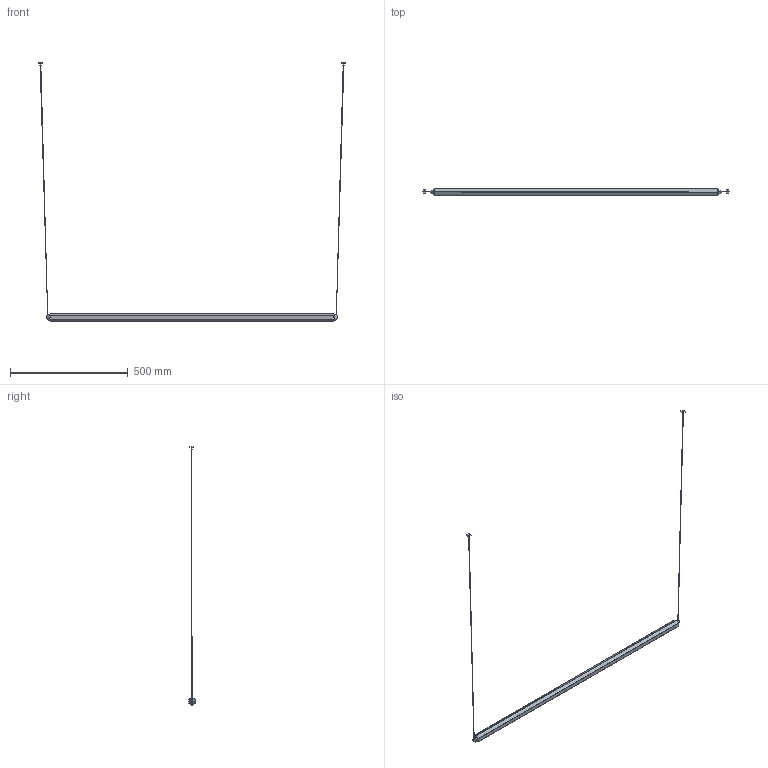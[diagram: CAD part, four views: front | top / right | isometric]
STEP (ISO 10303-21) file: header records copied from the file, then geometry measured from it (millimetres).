
FILE_DESCRIPTION(/* description */ (''),/* implementation_level */ '2;1');
FILE_NAME(/* name */ '64682-131_3d',/* time_stamp */ '2026-05-25T13:16:16+02:00',/* author */ (''),/* organization */ (''),/* preprocessor_version */ 'ST-DEVELOPER v19.2',/* originating_system */ 'Rhino 8.30',/* authorisation */ '');
FILE_SCHEMA (('CONFIG_CONTROL_DESIGN'));
Length unit declared in the file: millimetre
Products named in the file (1): Document
Bounding box: 1303.38 x 30.86 x 1095.24 mm (x, y, z)
Volume: 445597.4 mm3; surface area: 217203.1 mm2
Topology: 5 solids, 9 shells, 103 faces, 295 edges, 188 vertices
Faces by surface type: cylinder 40, plane 38, bspline 25
Entity records: 8524 total; most frequent: CARTESIAN_POINT 6274, ORIENTED_EDGE 562, EDGE_CURVE 287, DIRECTION 236, VERTEX_POINT 186, B_SPLINE_CURVE_WITH_KNOTS 163, AXIS2_PLACEMENT_3D 156, EDGE_LOOP 111
